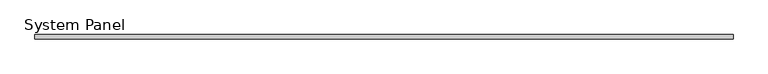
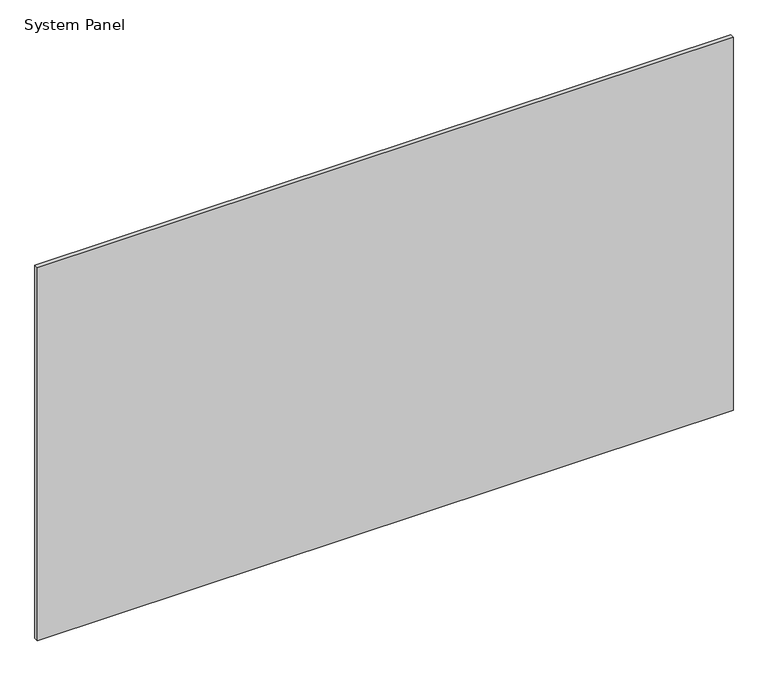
"""IFC4 building model written with IfcOpenShell, lengths in millimetres: plate geometry, System Panel : MALLA ACMA."""

from ifc_helpers import new_model, si_unit, origin, origin_with_axes, place, context, project, spatial, polyline, outline, extrude, source, transform, mapped, element, save


def system_panel_18225d18(model_context):
    return source(origin(), model_context, "Body", "SweptSolid", [
        extrude(outline(polyline([(811.6666668, -5.0), (-811.6666668, -5.0), (-811.6666668, 5.0), (811.6666668, 5.0), (811.6666668, -5.0)])), origin_with_axes(), (0.0, 0.0, 1.0), 920.0),
    ])


if __name__ == "__main__":
    model = new_model("IFC4")
    model_context = context("Model", 3, world=origin())
    ifc_project = project(units=[si_unit("LENGTHUNIT", "METRE", prefix="MILLI")], contexts=[model_context])
    site = spatial("IfcSite", under=ifc_project)
    building = spatial("IfcBuilding", under=site)
    placement = place(None, origin())
    system_panel_shape = system_panel_18225d18(model_context)
    element("IfcPlate", 1, ObjectType="System Panel : MALLA ACMA", at=placement, inside=building, context=model_context, shape_type="MappedRepresentation", body=[
        mapped(system_panel_shape, transform((0.0, 0.0, 0.0), x_axis=(1.0, 0.0, 0.0), y_axis=(0.0, 1.0, 0.0), z_axis=(0.0, 0.0, 1.0))),
    ])
    save(model, "model.ifc")
